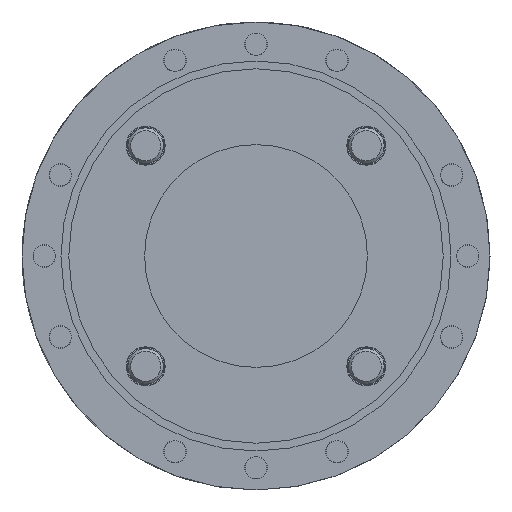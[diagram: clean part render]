
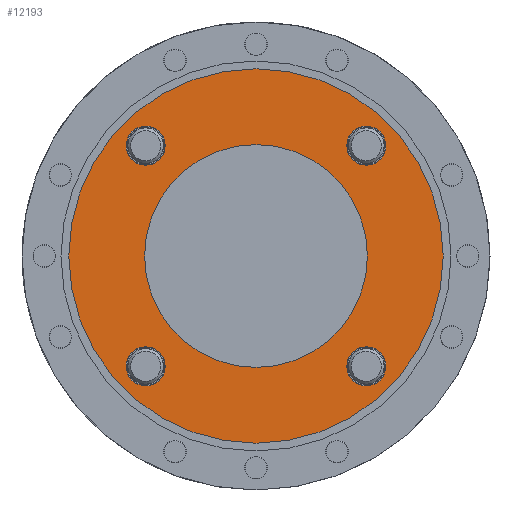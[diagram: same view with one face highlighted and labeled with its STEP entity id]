
A CAD part, left-side view. The second image highlights one B-rep face of the part: STEP entity #12193.
In plain terms, the highlighted planar face has unit normal (-1, 0, 0).
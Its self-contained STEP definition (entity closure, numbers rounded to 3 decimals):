
#11581 = EDGE_CURVE('',#11582,#11582,#11584,.T.);
#11582 = VERTEX_POINT('',#11583);
#11583 = CARTESIAN_POINT('',(-685.,40.747,49.497));
#11584 = CIRCLE('',#11585,8.75);
#11585 = AXIS2_PLACEMENT_3D('',#11586,#11587,#11588);
#11586 = CARTESIAN_POINT('',(-685.,49.497,49.497));
#11587 = DIRECTION('',(1.,0.,0.));
#11588 = DIRECTION('',(-0.,1.,0.));
#11729 = EDGE_CURVE('',#11730,#11730,#11732,.T.);
#11730 = VERTEX_POINT('',#11731);
#11731 = CARTESIAN_POINT('',(-685.,49.497,-40.747));
#11732 = CIRCLE('',#11733,8.75);
#11733 = AXIS2_PLACEMENT_3D('',#11734,#11735,#11736);
#11734 = CARTESIAN_POINT('',(-685.,49.497,-49.497));
#11735 = DIRECTION('',(1.,0.,0.));
#11736 = DIRECTION('',(0.,0.,-1.));
#11877 = EDGE_CURVE('',#11878,#11878,#11880,.T.);
#11878 = VERTEX_POINT('',#11879);
#11879 = CARTESIAN_POINT('',(-685.,-40.747,-49.497));
#11880 = CIRCLE('',#11881,8.75);
#11881 = AXIS2_PLACEMENT_3D('',#11882,#11883,#11884);
#11882 = CARTESIAN_POINT('',(-685.,-49.497,-49.497));
#11883 = DIRECTION('',(1.,0.,0.));
#11884 = DIRECTION('',(0.,-1.,0.));
#12085 = EDGE_CURVE('',#12086,#12086,#12088,.T.);
#12086 = VERTEX_POINT('',#12087);
#12087 = CARTESIAN_POINT('',(-685.,-49.497,40.747));
#12088 = CIRCLE('',#12089,8.75);
#12089 = AXIS2_PLACEMENT_3D('',#12090,#12091,#12092);
#12090 = CARTESIAN_POINT('',(-685.,-49.497,49.497));
#12091 = DIRECTION('',(1.,0.,-0.));
#12092 = DIRECTION('',(0.,0.,1.));
#12193 = ADVANCED_FACE('',(#12194,#12205,#12208,#12211,#12214,#12217),
  #12228,.T.);
#12194 = FACE_BOUND('',#12195,.T.);
#12195 = EDGE_LOOP('',(#12196));
#12196 = ORIENTED_EDGE('',*,*,#12197,.F.);
#12197 = EDGE_CURVE('',#12198,#12198,#12200,.T.);
#12198 = VERTEX_POINT('',#12199);
#12199 = CARTESIAN_POINT('',(-685.,-84.,0.));
#12200 = CIRCLE('',#12201,84.);
#12201 = AXIS2_PLACEMENT_3D('',#12202,#12203,#12204);
#12202 = CARTESIAN_POINT('',(-685.,0.,0.));
#12203 = DIRECTION('',(1.,0.,0.));
#12204 = DIRECTION('',(0.,-1.,0.));
#12205 = FACE_BOUND('',#12206,.T.);
#12206 = EDGE_LOOP('',(#12207));
#12207 = ORIENTED_EDGE('',*,*,#11581,.T.);
#12208 = FACE_BOUND('',#12209,.T.);
#12209 = EDGE_LOOP('',(#12210));
#12210 = ORIENTED_EDGE('',*,*,#11729,.T.);
#12211 = FACE_BOUND('',#12212,.T.);
#12212 = EDGE_LOOP('',(#12213));
#12213 = ORIENTED_EDGE('',*,*,#11877,.T.);
#12214 = FACE_BOUND('',#12215,.T.);
#12215 = EDGE_LOOP('',(#12216));
#12216 = ORIENTED_EDGE('',*,*,#12085,.T.);
#12217 = FACE_BOUND('',#12218,.T.);
#12218 = EDGE_LOOP('',(#12219));
#12219 = ORIENTED_EDGE('',*,*,#12220,.T.);
#12220 = EDGE_CURVE('',#12221,#12221,#12223,.T.);
#12221 = VERTEX_POINT('',#12222);
#12222 = CARTESIAN_POINT('',(-685.,-50.,0.));
#12223 = CIRCLE('',#12224,50.);
#12224 = AXIS2_PLACEMENT_3D('',#12225,#12226,#12227);
#12225 = CARTESIAN_POINT('',(-685.,0.,0.));
#12226 = DIRECTION('',(1.,0.,0.));
#12227 = DIRECTION('',(0.,-1.,0.));
#12228 = PLANE('',#12229);
#12229 = AXIS2_PLACEMENT_3D('',#12230,#12231,#12232);
#12230 = CARTESIAN_POINT('',(-685.,-67.,0.));
#12231 = DIRECTION('',(-1.,0.,0.));
#12232 = DIRECTION('',(0.,0.,-1.));
